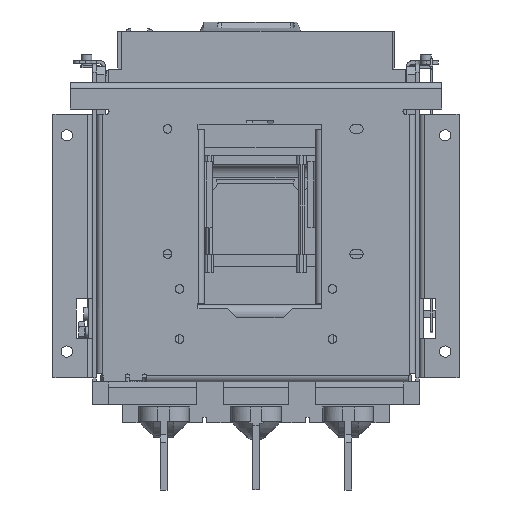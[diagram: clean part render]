
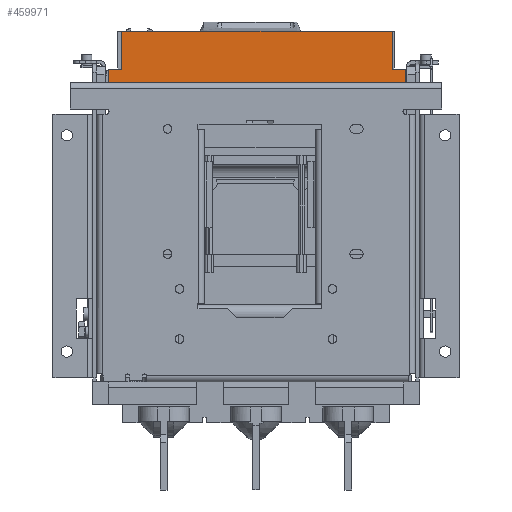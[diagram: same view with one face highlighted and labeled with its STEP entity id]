
A CAD part, front view. The second image highlights one B-rep face of the part: STEP entity #459971.
In plain terms, the highlighted planar face has unit normal (0, -1, 0).
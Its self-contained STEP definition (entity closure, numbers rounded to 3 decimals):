
#458406=CARTESIAN_POINT(' ',(271.52,-69.904,18.801));
#458407=VERTEX_POINT(' ',#458406);
#458421=CARTESIAN_POINT(' ',(477.02,-69.904,18.801));
#458426=DIRECTION(' ',(-1.,0.,0.));
#458431=VECTOR(' ',#458426,1.);
#458436=LINE('',#458421,#458431);
#458441=CARTESIAN_POINT(' ',(477.02,-69.904,18.801));
#458442=VERTEX_POINT(' ',#458441);
#458446=EDGE_CURVE(' ',#458442,#458407,#458436,.T.);
#459481=CARTESIAN_POINT(' ',(271.52,-69.904,-10.199));
#459482=VERTEX_POINT(' ',#459481);
#459496=CARTESIAN_POINT(' ',(271.52,-69.904,18.801));
#459501=DIRECTION(' ',(0.,0.,-1.));
#459506=VECTOR(' ',#459501,1.);
#459511=LINE('',#459496,#459506);
#459516=EDGE_CURVE(' ',#458407,#459482,#459511,.T.);
#459721=DIRECTION(' ',(0.,-1.,0.));
#459726=CARTESIAN_POINT(' ',(261.52,-69.904,-20.199));
#459731=DIRECTION(' ',(1.,0.,0.));
#459736=AXIS2_PLACEMENT_3D(' ',#459726,#459721,#459731);
#459741=PLANE('',#459736);
#459746=CARTESIAN_POINT(' ',(487.02,-69.904,-20.199));
#459751=DIRECTION(' ',(0.,0.,1.));
#459756=VECTOR(' ',#459751,1.);
#459761=LINE('',#459746,#459756);
#459766=CARTESIAN_POINT(' ',(487.02,-69.904,-20.199));
#459767=VERTEX_POINT(' ',#459766);
#459771=CARTESIAN_POINT(' ',(487.02,-69.904,-10.199));
#459772=VERTEX_POINT(' ',#459771);
#459776=EDGE_CURVE(' ',#459767,#459772,#459761,.T.);
#459781=ORIENTED_EDGE(' ',*,*,#459776,.T.);
#459786=CARTESIAN_POINT(' ',(487.02,-69.904,-10.199));
#459791=DIRECTION(' ',(-1.,0.,0.));
#459796=VECTOR(' ',#459791,1.);
#459801=LINE('',#459786,#459796);
#459806=CARTESIAN_POINT(' ',(477.02,-69.904,-10.199));
#459807=VERTEX_POINT(' ',#459806);
#459811=EDGE_CURVE(' ',#459772,#459807,#459801,.T.);
#459816=ORIENTED_EDGE(' ',*,*,#459811,.T.);
#459821=CARTESIAN_POINT(' ',(477.02,-69.904,-10.199));
#459826=DIRECTION(' ',(0.,0.,1.));
#459831=VECTOR(' ',#459826,1.);
#459836=LINE('',#459821,#459831);
#459841=EDGE_CURVE(' ',#459807,#458442,#459836,.T.);
#459846=ORIENTED_EDGE(' ',*,*,#459841,.T.);
#459851=ORIENTED_EDGE(' ',*,*,#458446,.T.);
#459856=ORIENTED_EDGE(' ',*,*,#459516,.T.);
#459861=CARTESIAN_POINT(' ',(271.52,-69.904,-10.199));
#459866=DIRECTION(' ',(-1.,0.,0.));
#459871=VECTOR(' ',#459866,1.);
#459876=LINE('',#459861,#459871);
#459881=CARTESIAN_POINT(' ',(261.52,-69.904,-10.199));
#459882=VERTEX_POINT(' ',#459881);
#459886=EDGE_CURVE(' ',#459482,#459882,#459876,.T.);
#459891=ORIENTED_EDGE(' ',*,*,#459886,.T.);
#459896=CARTESIAN_POINT(' ',(261.52,-69.904,-10.199));
#459901=DIRECTION(' ',(0.,0.,-1.));
#459906=VECTOR(' ',#459901,1.);
#459911=LINE('',#459896,#459906);
#459916=CARTESIAN_POINT(' ',(261.52,-69.904,-20.199));
#459917=VERTEX_POINT(' ',#459916);
#459921=EDGE_CURVE(' ',#459882,#459917,#459911,.T.);
#459926=ORIENTED_EDGE(' ',*,*,#459921,.T.);
#459931=CARTESIAN_POINT(' ',(261.52,-69.904,-20.199));
#459936=DIRECTION(' ',(1.,0.,0.));
#459941=VECTOR(' ',#459936,1.);
#459946=LINE('',#459931,#459941);
#459951=EDGE_CURVE(' ',#459917,#459767,#459946,.T.);
#459956=ORIENTED_EDGE(' ',*,*,#459951,.T.);
#459961=EDGE_LOOP(' ',(#459781,#459816,#459846,#459851,#459856,#459891,#459926,#459956));
#459966=FACE_OUTER_BOUND(' ',#459961,.T.);
#459971=ADVANCED_FACE('NONE',(#459966),#459741,.T.);
